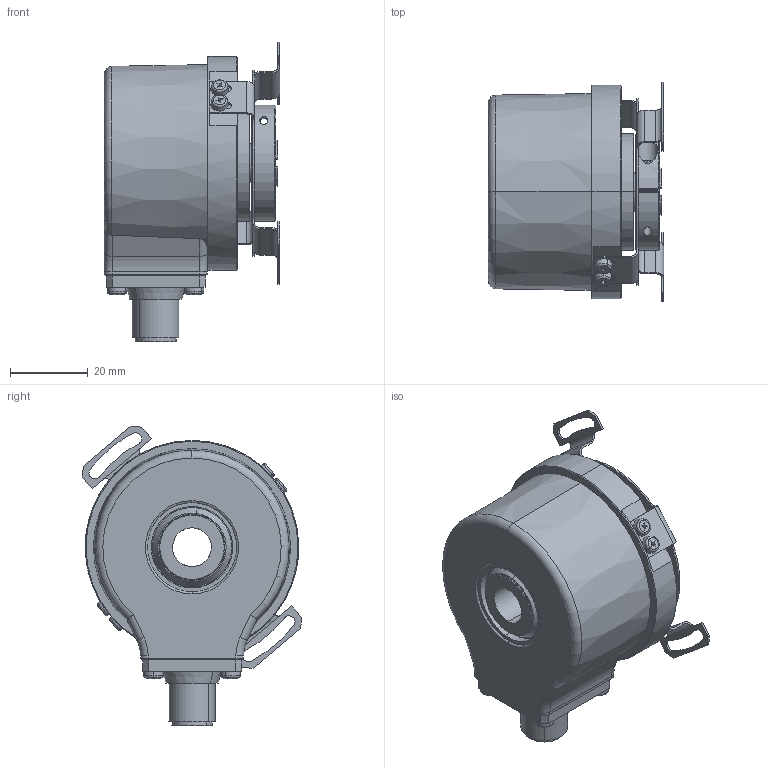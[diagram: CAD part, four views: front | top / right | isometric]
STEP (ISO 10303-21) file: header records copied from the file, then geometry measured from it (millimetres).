
FILE_DESCRIPTION (( 'STEP AP214' ), '1' );
FILE_NAME ('8.5020.D3X2.XXXX.STEP', '2011-01-10T10:32:37', ( 'admin' ), ( 'Fritz Kübler GmbH' ), 'SwSTEP 2.0', 'SolidWorks 2009', '' );
FILE_SCHEMA (( 'AUTOMOTIVE_DESIGN' ));
Length unit declared in the file: millimetre
Products named in the file (1): 8.5020.D3X2.XXXX
Bounding box: 45.2 x 56.46 x 77.19 mm (x, y, z)
Surface area: 20984 mm2 (no closed solid volume)
Topology: 0 solids, 26 shells, 411 faces, 1157 edges, 750 vertices
Faces by surface type: plane 197, cylinder 125, cone 33, torus 28, sphere 24, bspline 4
Entity records: 17957 total; most frequent: CARTESIAN_POINT 2821, DIRECTION 2343, ORIENTED_EDGE 2015, EDGE_CURVE 1125, AXIS2_PLACEMENT_3D 874, VERTEX_POINT 734, VECTOR 595, LINE 595
